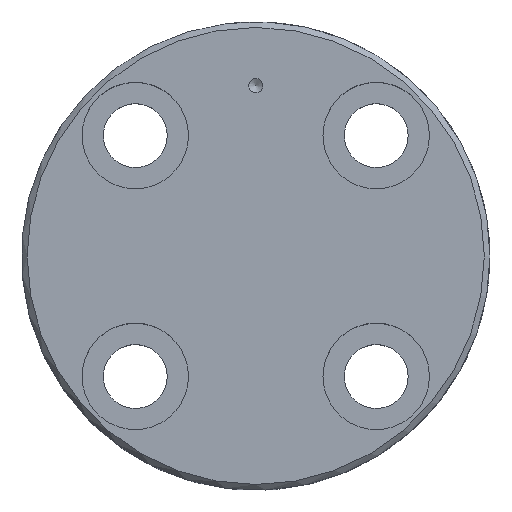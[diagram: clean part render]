
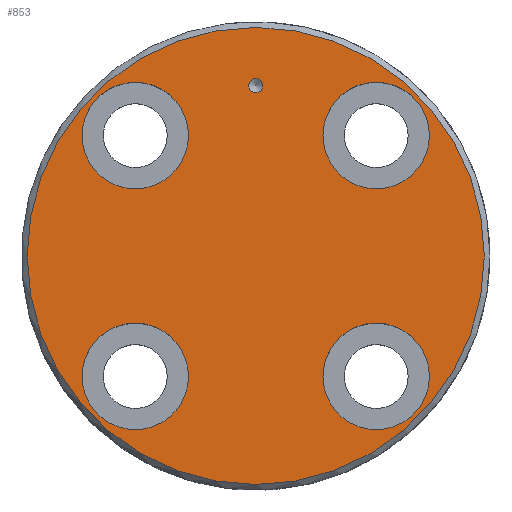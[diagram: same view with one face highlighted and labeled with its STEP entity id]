
A CAD part, top view. The second image highlights one B-rep face of the part: STEP entity #853.
In plain terms, the highlighted planar face has unit normal (0, 0, 1).
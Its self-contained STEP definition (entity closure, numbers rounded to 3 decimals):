
#364=CARTESIAN_POINT('',(1.0,24.,14.));
#365=VERTEX_POINT('',#364);
#366=CARTESIAN_POINT('',(0.0,24.,14.));
#367=DIRECTION('',(0.0,0.0,-1.0));
#368=DIRECTION('',(1.0,0.0,0.0));
#369=AXIS2_PLACEMENT_3D('',#366,#367,#368);
#370=CIRCLE('',#369,1.0);
#371=EDGE_CURVE('',#365,#365,#370,.T.);
#433=CARTESIAN_POINT('',(16.971,-24.471,14.));
#434=VERTEX_POINT('',#433);
#435=CARTESIAN_POINT('',(16.971,-16.971,14.));
#436=DIRECTION('',(0.0,0.0,-1.0));
#437=DIRECTION('',(0.0,-1.0,0.0));
#438=AXIS2_PLACEMENT_3D('',#435,#436,#437);
#439=CIRCLE('',#438,7.5);
#440=EDGE_CURVE('',#434,#434,#439,.T.);
#535=CARTESIAN_POINT('',(-24.471,-16.971,14.));
#536=VERTEX_POINT('',#535);
#537=CARTESIAN_POINT('',(-16.971,-16.971,14.));
#538=DIRECTION('',(0.0,0.0,-1.0));
#539=DIRECTION('',(-1.0,0.0,0.0));
#540=AXIS2_PLACEMENT_3D('',#537,#538,#539);
#541=CIRCLE('',#540,7.5);
#542=EDGE_CURVE('',#536,#536,#541,.T.);
#637=CARTESIAN_POINT('',(-16.971,24.471,14.));
#638=VERTEX_POINT('',#637);
#639=CARTESIAN_POINT('',(-16.971,16.971,14.));
#640=DIRECTION('',(0.0,0.0,-1.0));
#641=DIRECTION('',(0.0,1.0,0.0));
#642=AXIS2_PLACEMENT_3D('',#639,#640,#641);
#643=CIRCLE('',#642,7.5);
#644=EDGE_CURVE('',#638,#638,#643,.T.);
#739=CARTESIAN_POINT('',(24.471,16.971,14.));
#740=VERTEX_POINT('',#739);
#741=CARTESIAN_POINT('',(16.971,16.971,14.));
#742=DIRECTION('',(0.0,0.0,-1.0));
#743=DIRECTION('',(1.0,0.0,0.0));
#744=AXIS2_PLACEMENT_3D('',#741,#742,#743);
#745=CIRCLE('',#744,7.5);
#746=EDGE_CURVE('',#740,#740,#745,.T.);
#792=CARTESIAN_POINT('',(32.2,0.,14.));
#793=VERTEX_POINT('',#792);
#794=CARTESIAN_POINT('',(0.0,0.0,14.));
#795=DIRECTION('',(0.0,0.0,-1.0));
#796=DIRECTION('',(-1.0,0.0,0.0));
#797=AXIS2_PLACEMENT_3D('',#794,#795,#796);
#798=CIRCLE('',#797,32.2);
#799=EDGE_CURVE('',#793,#793,#798,.T.);
#830=CARTESIAN_POINT('',(0.0,0.0,14.));
#831=DIRECTION('',(0.0,0.0,-1.0));
#832=DIRECTION('',(-1.0,0.0,0.0));
#833=AXIS2_PLACEMENT_3D('',#830,#831,#832);
#834=PLANE('',#833);
#835=ORIENTED_EDGE('',*,*,#799,.F.);
#836=EDGE_LOOP('',(#835));
#837=FACE_OUTER_BOUND('',#836,.T.);
#838=ORIENTED_EDGE('',*,*,#371,.T.);
#839=EDGE_LOOP('',(#838));
#840=FACE_BOUND('',#839,.T.);
#841=ORIENTED_EDGE('',*,*,#440,.T.);
#842=EDGE_LOOP('',(#841));
#843=FACE_BOUND('',#842,.T.);
#844=ORIENTED_EDGE('',*,*,#542,.T.);
#845=EDGE_LOOP('',(#844));
#846=FACE_BOUND('',#845,.T.);
#847=ORIENTED_EDGE('',*,*,#644,.T.);
#848=EDGE_LOOP('',(#847));
#849=FACE_BOUND('',#848,.T.);
#850=ORIENTED_EDGE('',*,*,#746,.T.);
#851=EDGE_LOOP('',(#850));
#852=FACE_BOUND('',#851,.T.);
#853=ADVANCED_FACE('',(#837,#840,#843,#846,#849,#852),#834,.F.);
